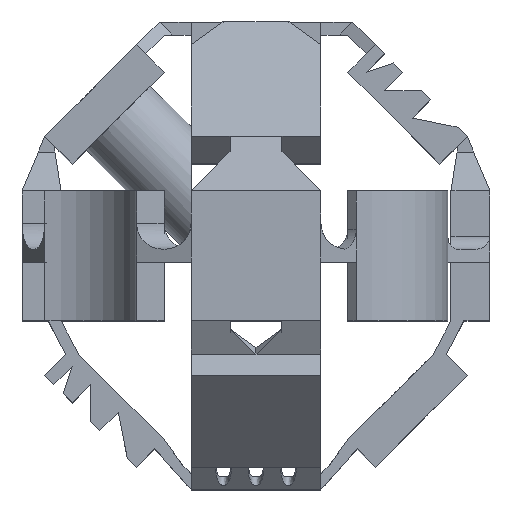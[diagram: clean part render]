
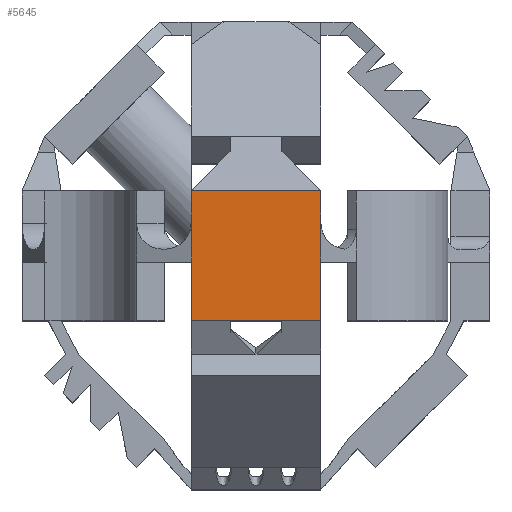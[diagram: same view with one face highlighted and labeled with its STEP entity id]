
A CAD part, top view. The second image highlights one B-rep face of the part: STEP entity #5645.
In plain terms, the highlighted planar face has unit normal (0, 0, 1).
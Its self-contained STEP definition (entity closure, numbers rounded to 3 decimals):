
#1062=ORIENTED_EDGE('',*,*,#2447,.T.);
#1063=ORIENTED_EDGE('',*,*,#2452,.T.);
#1064=ORIENTED_EDGE('',*,*,#2006,.T.);
#1065=ORIENTED_EDGE('',*,*,#2176,.T.);
#1066=ORIENTED_EDGE('',*,*,#2044,.T.);
#1067=ORIENTED_EDGE('',*,*,#2453,.F.);
#1068=ORIENTED_EDGE('',*,*,#2449,.T.);
#1069=ORIENTED_EDGE('',*,*,#2374,.F.);
#2006=EDGE_CURVE('',#2797,#2796,#3288,.T.);
#2044=EDGE_CURVE('',#2830,#2698,#3322,.T.);
#2176=EDGE_CURVE('',#2796,#2830,#3450,.T.);
#2374=EDGE_CURVE('',#3067,#3068,#3646,.T.);
#2447=EDGE_CURVE('',#3067,#3110,#3715,.T.);
#2449=EDGE_CURVE('',#2701,#3068,#3717,.T.);
#2452=EDGE_CURVE('',#3110,#2797,#3720,.T.);
#2453=EDGE_CURVE('',#2701,#2698,#3721,.T.);
#2698=VERTEX_POINT('',#7699);
#2701=VERTEX_POINT('',#7706);
#2796=VERTEX_POINT('',#8257);
#2797=VERTEX_POINT('',#8259);
#2830=VERTEX_POINT('',#8333);
#3067=VERTEX_POINT('',#8973);
#3068=VERTEX_POINT('',#8975);
#3110=VERTEX_POINT('',#9114);
#3288=LINE('',#8258,#3986);
#3322=LINE('',#8332,#4020);
#3450=LINE('',#8589,#4148);
#3646=LINE('',#8974,#4344);
#3715=LINE('',#9115,#4413);
#3717=LINE('',#9118,#4415);
#3720=LINE('',#9122,#4418);
#3721=LINE('',#9123,#4419);
#3986=VECTOR('',#6387,1000.);
#4020=VECTOR('',#6435,1000.);
#4148=VECTOR('',#6607,1000.);
#4344=VECTOR('',#6919,1000.);
#4413=VECTOR('',#7046,1000.);
#4415=VECTOR('',#7050,1000.);
#4418=VECTOR('',#7055,1000.);
#4419=VECTOR('',#7056,1000.);
#4729=EDGE_LOOP('',(#1062,#1063,#1064,#1065,#1066,#1067,#1068,#1069));
#5067=FACE_BOUND('',#4729,.T.);
#5392=PLANE('',#5985);
#5645=ADVANCED_FACE('',(#5067),#5392,.T.);
#5985=AXIS2_PLACEMENT_3D('',#9121,#7053,#7054);
#6387=DIRECTION('',(0.,-1.,0.));
#6435=DIRECTION('',(0.,1.,0.));
#6607=DIRECTION('',(1.,0.,0.));
#6919=DIRECTION('',(1.,0.,0.));
#7046=DIRECTION('',(0.,-1.,0.));
#7050=DIRECTION('',(0.,1.,0.));
#7053=DIRECTION('',(0.,0.,1.));
#7054=DIRECTION('',(0.,-1.,0.));
#7055=DIRECTION('',(0.,-1.,0.));
#7056=DIRECTION('',(0.,-1.,0.));
#7699=CARTESIAN_POINT('',(5.,-0.5,18.));
#7706=CARTESIAN_POINT('',(5.,2.5,18.));
#8257=CARTESIAN_POINT('',(-5.,-5.,18.));
#8258=CARTESIAN_POINT('',(-5.,5.,18.));
#8259=CARTESIAN_POINT('',(-5.,-0.5,18.));
#8332=CARTESIAN_POINT('',(5.,-5.,18.));
#8333=CARTESIAN_POINT('',(5.,-5.,18.));
#8589=CARTESIAN_POINT('',(-5.,-5.,18.));
#8973=CARTESIAN_POINT('',(-5.,5.,18.));
#8974=CARTESIAN_POINT('',(-2.,5.,18.));
#8975=CARTESIAN_POINT('',(5.,5.,18.));
#9114=CARTESIAN_POINT('',(-5.,2.5,18.));
#9115=CARTESIAN_POINT('',(-5.,5.,18.));
#9118=CARTESIAN_POINT('',(5.,-5.,18.));
#9121=CARTESIAN_POINT('',(0.,0.,18.));
#9122=CARTESIAN_POINT('',(-5.,0.5,18.));
#9123=CARTESIAN_POINT('',(5.,0.5,18.));
